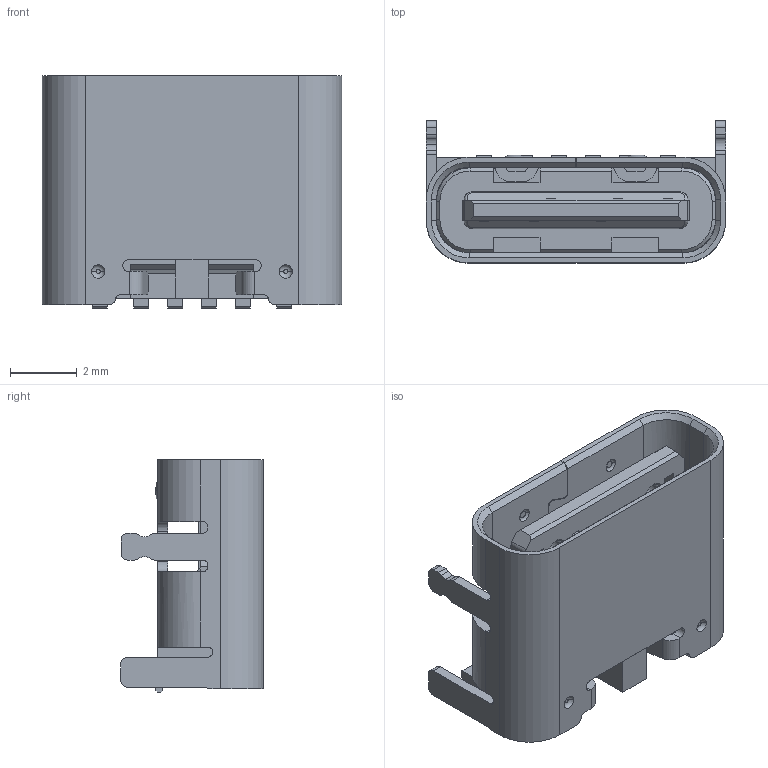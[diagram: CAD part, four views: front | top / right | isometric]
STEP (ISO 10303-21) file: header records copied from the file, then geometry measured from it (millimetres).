
FILE_DESCRIPTION (( 'STEP AP203' ), '1' );
FILE_NAME ('6P啣奻.STEP', '2022-01-11T10:18:17', ( 'Microsoft' ), ( 'Microsoft' ), 'SwSTEP 2.0', 'SolidWorks 2018', '' );
FILE_SCHEMA (( 'CONFIG_CONTROL_DESIGN' ));
Length unit declared in the file: millimetre
Products named in the file (2): 錨璃11^17004-B5; 6P啣奻
Assembly tree (1 placements, depth 2):
  6P啣奻
    錨璃11^17004-B5
Bounding box: 8.94 x 4.26 x 6.95 mm (x, y, z)
Volume: 90.9 mm3; surface area: 470.9 mm2
Topology: 1 solids, 1 shells, 577 faces, 1747 edges, 1148 vertices
Faces by surface type: plane 405, cylinder 134, torus 18, cone 12, bspline 8
Entity records: 20199 total; most frequent: CARTESIAN_POINT 4040, ORIENTED_EDGE 3494, DIRECTION 3189, EDGE_CURVE 1747, VECTOR 1339, LINE 1339, VERTEX_POINT 1148, AXIS2_PLACEMENT_3D 925
